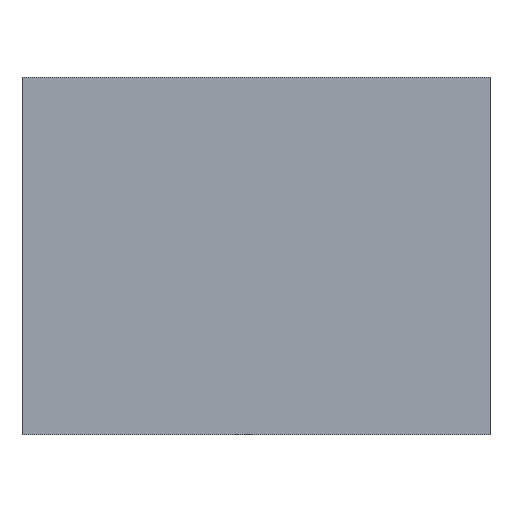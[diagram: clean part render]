
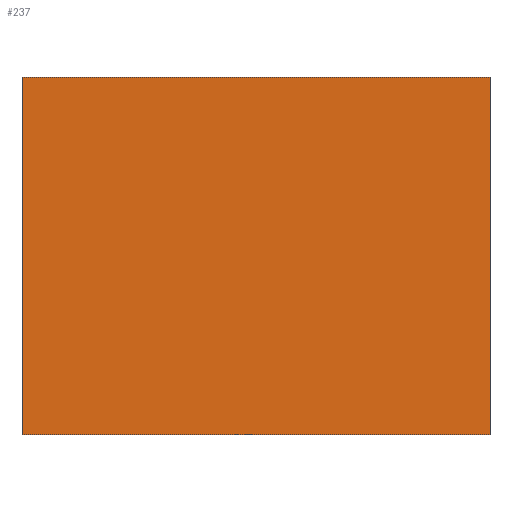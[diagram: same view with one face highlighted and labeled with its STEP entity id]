
A CAD part, front view. The second image highlights one B-rep face of the part: STEP entity #237.
In plain terms, the highlighted planar face has unit normal (0, -1, 0).
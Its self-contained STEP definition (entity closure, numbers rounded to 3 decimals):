
#21 = EDGE_CURVE('',#22,#24,#26,.T.);
#22 = VERTEX_POINT('',#23);
#23 = CARTESIAN_POINT('',(-27.5,212.5,257.));
#24 = VERTEX_POINT('',#25);
#25 = CARTESIAN_POINT('',(-27.5,212.5,299.));
#26 = SURFACE_CURVE('',#27,(#31,#43),.PCURVE_S1.);
#27 = LINE('',#28,#29);
#28 = CARTESIAN_POINT('',(-27.5,212.5,257.));
#29 = VECTOR('',#30,1.);
#30 = DIRECTION('',(0.,0.,1.));
#31 = PCURVE('',#32,#37);
#32 = PLANE('',#33);
#33 = AXIS2_PLACEMENT_3D('',#34,#35,#36);
#34 = CARTESIAN_POINT('',(-27.5,212.5,257.));
#35 = DIRECTION('',(1.,0.,0.));
#36 = DIRECTION('',(0.,0.,1.));
#37 = DEFINITIONAL_REPRESENTATION('',(#38),#42);
#38 = LINE('',#39,#40);
#39 = CARTESIAN_POINT('',(0.,0.));
#40 = VECTOR('',#41,1.);
#41 = DIRECTION('',(1.,0.));
#42 = ( GEOMETRIC_REPRESENTATION_CONTEXT(2) 
PARAMETRIC_REPRESENTATION_CONTEXT() REPRESENTATION_CONTEXT('2D SPACE',''
  ) );
#43 = PCURVE('',#44,#49);
#44 = PLANE('',#45);
#45 = AXIS2_PLACEMENT_3D('',#46,#47,#48);
#46 = CARTESIAN_POINT('',(-27.5,212.5,257.));
#47 = DIRECTION('',(0.,1.,0.));
#48 = DIRECTION('',(0.,0.,1.));
#49 = DEFINITIONAL_REPRESENTATION('',(#50),#54);
#50 = LINE('',#51,#52);
#51 = CARTESIAN_POINT('',(0.,0.));
#52 = VECTOR('',#53,1.);
#53 = DIRECTION('',(1.,0.));
#54 = ( GEOMETRIC_REPRESENTATION_CONTEXT(2) 
PARAMETRIC_REPRESENTATION_CONTEXT() REPRESENTATION_CONTEXT('2D SPACE',''
  ) );
#72 = PLANE('',#73);
#73 = AXIS2_PLACEMENT_3D('',#74,#75,#76);
#74 = CARTESIAN_POINT('',(-27.5,212.5,257.));
#75 = DIRECTION('',(0.,0.,1.));
#76 = DIRECTION('',(1.,0.,0.));
#126 = PLANE('',#127);
#127 = AXIS2_PLACEMENT_3D('',#128,#129,#130);
#128 = CARTESIAN_POINT('',(-27.5,212.5,299.));
#129 = DIRECTION('',(0.,0.,1.));
#130 = DIRECTION('',(1.,0.,0.));
#141 = EDGE_CURVE('',#142,#144,#146,.T.);
#142 = VERTEX_POINT('',#143);
#143 = CARTESIAN_POINT('',(27.5,212.5,257.));
#144 = VERTEX_POINT('',#145);
#145 = CARTESIAN_POINT('',(27.5,212.5,299.));
#146 = SURFACE_CURVE('',#147,(#151,#163),.PCURVE_S1.);
#147 = LINE('',#148,#149);
#148 = CARTESIAN_POINT('',(27.5,212.5,257.));
#149 = VECTOR('',#150,1.);
#150 = DIRECTION('',(0.,0.,1.));
#151 = PCURVE('',#152,#157);
#152 = PLANE('',#153);
#153 = AXIS2_PLACEMENT_3D('',#154,#155,#156);
#154 = CARTESIAN_POINT('',(27.5,212.5,257.));
#155 = DIRECTION('',(1.,0.,0.));
#156 = DIRECTION('',(0.,0.,1.));
#157 = DEFINITIONAL_REPRESENTATION('',(#158),#162);
#158 = LINE('',#159,#160);
#159 = CARTESIAN_POINT('',(0.,0.));
#160 = VECTOR('',#161,1.);
#161 = DIRECTION('',(1.,0.));
#162 = ( GEOMETRIC_REPRESENTATION_CONTEXT(2) 
PARAMETRIC_REPRESENTATION_CONTEXT() REPRESENTATION_CONTEXT('2D SPACE',''
  ) );
#163 = PCURVE('',#44,#164);
#164 = DEFINITIONAL_REPRESENTATION('',(#165),#169);
#165 = LINE('',#166,#167);
#166 = CARTESIAN_POINT('',(0.,55.));
#167 = VECTOR('',#168,1.);
#168 = DIRECTION('',(1.,0.));
#169 = ( GEOMETRIC_REPRESENTATION_CONTEXT(2) 
PARAMETRIC_REPRESENTATION_CONTEXT() REPRESENTATION_CONTEXT('2D SPACE',''
  ) );
#237 = ADVANCED_FACE('',(#238),#44,.F.);
#238 = FACE_BOUND('',#239,.F.);
#239 = EDGE_LOOP('',(#240,#261,#262,#283));
#240 = ORIENTED_EDGE('',*,*,#241,.F.);
#241 = EDGE_CURVE('',#22,#142,#242,.T.);
#242 = SURFACE_CURVE('',#243,(#247,#254),.PCURVE_S1.);
#243 = LINE('',#244,#245);
#244 = CARTESIAN_POINT('',(-27.5,212.5,257.));
#245 = VECTOR('',#246,1.);
#246 = DIRECTION('',(1.,0.,0.));
#247 = PCURVE('',#44,#248);
#248 = DEFINITIONAL_REPRESENTATION('',(#249),#253);
#249 = LINE('',#250,#251);
#250 = CARTESIAN_POINT('',(0.,0.));
#251 = VECTOR('',#252,1.);
#252 = DIRECTION('',(0.,1.));
#253 = ( GEOMETRIC_REPRESENTATION_CONTEXT(2) 
PARAMETRIC_REPRESENTATION_CONTEXT() REPRESENTATION_CONTEXT('2D SPACE',''
  ) );
#254 = PCURVE('',#72,#255);
#255 = DEFINITIONAL_REPRESENTATION('',(#256),#260);
#256 = LINE('',#257,#258);
#257 = CARTESIAN_POINT('',(0.,0.));
#258 = VECTOR('',#259,1.);
#259 = DIRECTION('',(1.,0.));
#260 = ( GEOMETRIC_REPRESENTATION_CONTEXT(2) 
PARAMETRIC_REPRESENTATION_CONTEXT() REPRESENTATION_CONTEXT('2D SPACE',''
  ) );
#261 = ORIENTED_EDGE('',*,*,#21,.T.);
#262 = ORIENTED_EDGE('',*,*,#263,.T.);
#263 = EDGE_CURVE('',#24,#144,#264,.T.);
#264 = SURFACE_CURVE('',#265,(#269,#276),.PCURVE_S1.);
#265 = LINE('',#266,#267);
#266 = CARTESIAN_POINT('',(-27.5,212.5,299.));
#267 = VECTOR('',#268,1.);
#268 = DIRECTION('',(1.,0.,0.));
#269 = PCURVE('',#44,#270);
#270 = DEFINITIONAL_REPRESENTATION('',(#271),#275);
#271 = LINE('',#272,#273);
#272 = CARTESIAN_POINT('',(42.,0.));
#273 = VECTOR('',#274,1.);
#274 = DIRECTION('',(0.,1.));
#275 = ( GEOMETRIC_REPRESENTATION_CONTEXT(2) 
PARAMETRIC_REPRESENTATION_CONTEXT() REPRESENTATION_CONTEXT('2D SPACE',''
  ) );
#276 = PCURVE('',#126,#277);
#277 = DEFINITIONAL_REPRESENTATION('',(#278),#282);
#278 = LINE('',#279,#280);
#279 = CARTESIAN_POINT('',(0.,0.));
#280 = VECTOR('',#281,1.);
#281 = DIRECTION('',(1.,0.));
#282 = ( GEOMETRIC_REPRESENTATION_CONTEXT(2) 
PARAMETRIC_REPRESENTATION_CONTEXT() REPRESENTATION_CONTEXT('2D SPACE',''
  ) );
#283 = ORIENTED_EDGE('',*,*,#141,.F.);
